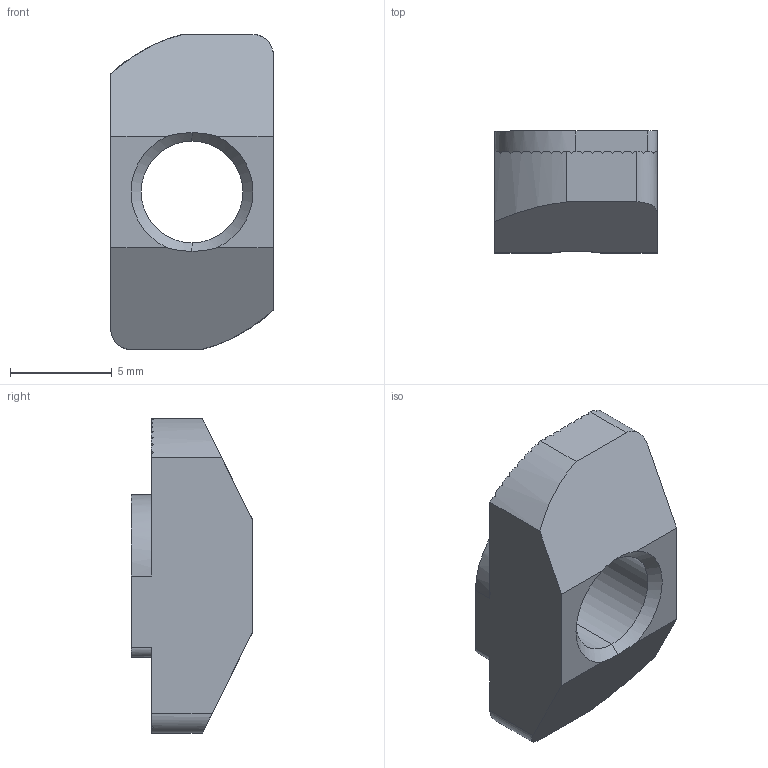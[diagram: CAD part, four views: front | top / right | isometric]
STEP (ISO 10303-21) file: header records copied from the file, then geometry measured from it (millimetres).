
FILE_DESCRIPTION (( 'STEP AP203' ), '1' );
FILE_NAME ('LIMA-RN6-83030.STEP', '2018-03-15T12:24:46', ( '' ), ( '' ), 'SwSTEP 2.0', 'SolidWorks 2013', '' );
FILE_SCHEMA (( 'CONFIG_CONTROL_DESIGN' ));
Length unit declared in the file: millimetre
Products named in the file (1): LIMA-RN6-83030
Bounding box: 8 x 6 x 15.5 mm (x, y, z)
Volume: 430.7 mm3; surface area: 488.3 mm2
Topology: 1 solids, 1 shells, 123 faces, 362 edges, 240 vertices
Faces by surface type: plane 109, cylinder 10, cone 4
Entity records: 4141 total; most frequent: CARTESIAN_POINT 966, ORIENTED_EDGE 724, DIRECTION 586, EDGE_CURVE 362, VERTEX_POINT 240, VECTOR 226, LINE 226, AXIS2_PLACEMENT_3D 180
